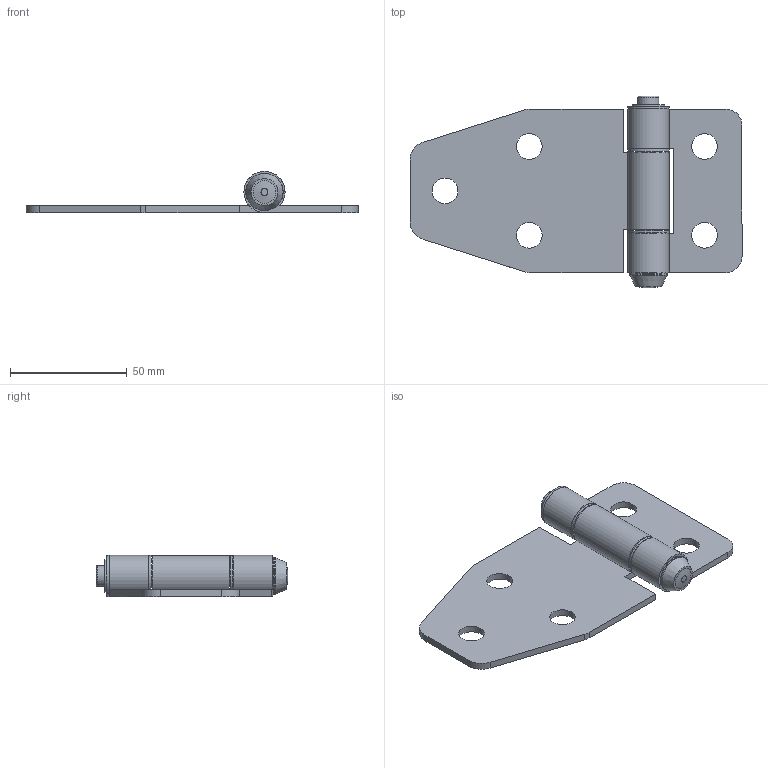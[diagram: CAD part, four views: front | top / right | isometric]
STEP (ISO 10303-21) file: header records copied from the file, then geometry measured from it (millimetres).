
FILE_DESCRIPTION(/* description */ (''),/* implementation_level */ '2;1');
FILE_NAME(/* name */ '\\NAS\db20\HS70145-30\DR_HS70145-30.stp',/* time_stamp */ '2018-04-12T18:54:21+09:00',/* author */ ('user'),/* organization */ (''),/* preprocessor_version */ 'ST-DEVELOPER v15.6',/* originating_system */ 'Autodesk Inventor 2015',/* authorisation */ '');
FILE_SCHEMA (('AUTOMOTIVE_DESIGN { 1 0 10303 214 3 1 1 }'));
Length unit declared in the file: millimetre
Products named in the file (4): E링14; HS70145-30-P1; HS70145-30-P2; DR_HS70145-30
Bounding box: 142 x 82 x 17.6 mm (x, y, z)
Volume: 43201.4 mm3; surface area: 27128.7 mm2
Topology: 7 solids, 7 shells, 78 faces, 176 edges, 116 vertices
Faces by surface type: plane 39, cylinder 34, torus 3, cone 2
Full cylindrical faces by diameter (mm): 7 x1, 9 x3, 11 x5, 16 x1, 17.6 x3
Entity records: 2232 total; most frequent: DIRECTION 402, CARTESIAN_POINT 359, ORIENTED_EDGE 316, AXIS2_PLACEMENT_3D 159, EDGE_CURVE 158, VERTEX_POINT 116, EDGE_LOOP 112, LINE 84
